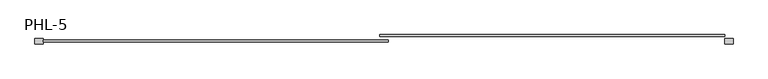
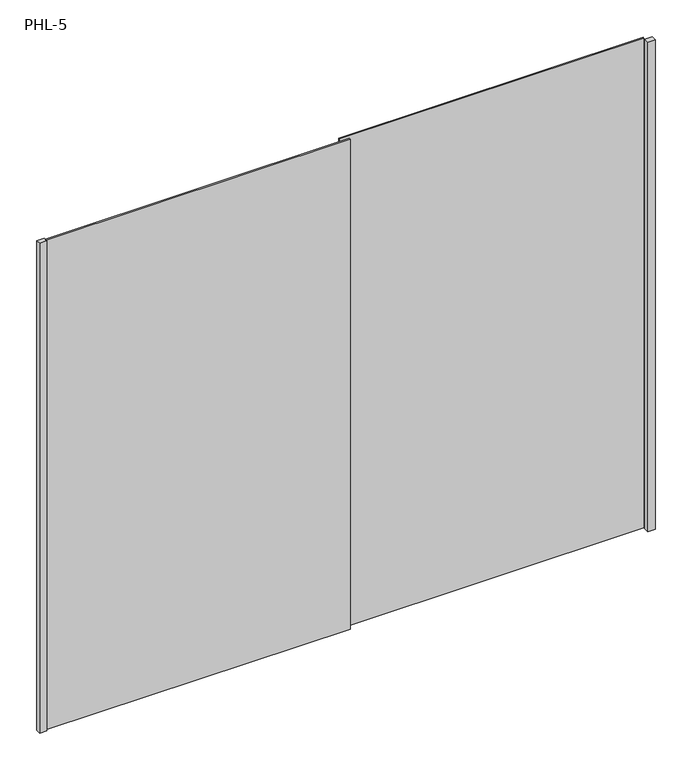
"""IFC4 building model written with IfcOpenShell, lengths in millimetres: furniture geometry, Puerta Closet corre 2 hojas : PHL-5."""

from ifc_helpers import new_model, si_unit, origin, origin_with_axes, place, context, project, spatial, polyline, outline, extrude, source, transform, mapped, element, save


def phl_5_47ca8662(model_context):
    return source(origin(), model_context, "Body", "SweptSolid", [
        extrude(outline(polyline([(720.0, 80.0), (690.0, 80.0), (690.0, 100.0), (720.0, 100.0), (720.0, 80.0)])), origin_with_axes(), (0.0, 0.0, 1.0), 2120.0),
        extrude(outline(polyline([(690.0, 106.6666667), (-555.0, 106.6666667), (-555.0, 113.3333333), (690.0, 113.3333333), (690.0, 106.6666667)])), origin_with_axes(), (0.0, 0.0, 1.0), 2120.0),
        extrude(outline(polyline([(-525.0, 86.6666667), (-1770.0, 86.6666667), (-1770.0, 93.3333333), (-525.0, 93.3333333), (-525.0, 86.6666667)])), origin_with_axes(), (0.0, 0.0, 1.0), 2120.0),
        extrude(outline(polyline([(-1800.0, 80.0), (-1800.0, 100.0), (-1770.0, 100.0), (-1770.0, 80.0), (-1800.0, 80.0)])), origin_with_axes(), (0.0, 0.0, 1.0), 2120.0),
    ])


if __name__ == "__main__":
    model = new_model("IFC4")
    model_context = context("Model", 3, world=origin())
    ifc_project = project(units=[si_unit("LENGTHUNIT", "METRE", prefix="MILLI")], contexts=[model_context])
    site = spatial("IfcSite", under=ifc_project)
    building = spatial("IfcBuilding", under=site)
    placement = place(None, origin())
    phl_5_shape = phl_5_47ca8662(model_context)
    element("IfcFurniture", 1, ObjectType="Puerta Closet corre 2 hojas : PHL-5", at=placement, inside=building, context=model_context, shape_type="MappedRepresentation", body=[
        mapped(phl_5_shape, transform((0.0, 0.0, 0.0), x_axis=(1.0, 0.0, 0.0), y_axis=(0.0, 1.0, 0.0), z_axis=(0.0, 0.0, 1.0))),
    ])
    save(model, "model.ifc")
